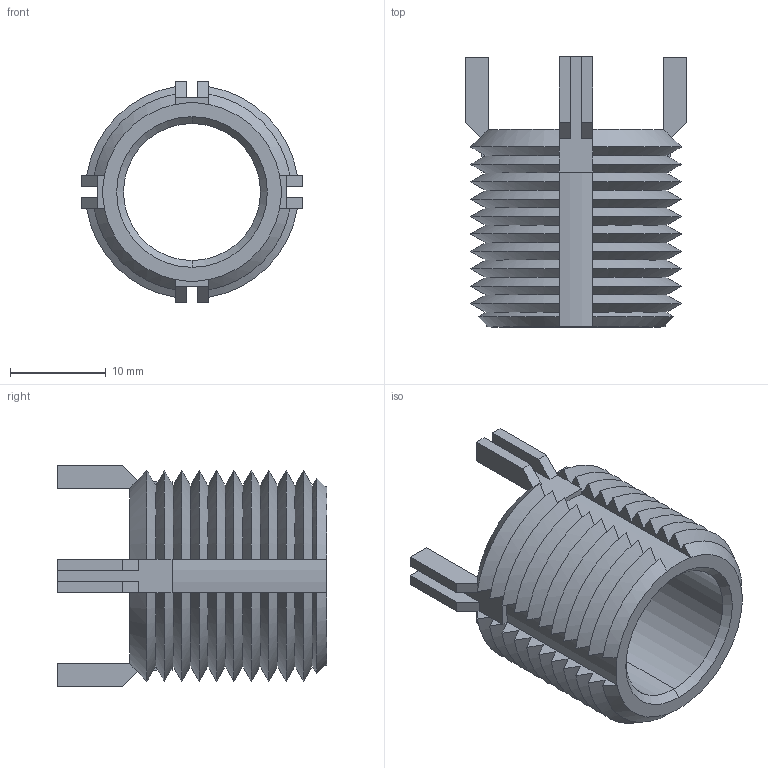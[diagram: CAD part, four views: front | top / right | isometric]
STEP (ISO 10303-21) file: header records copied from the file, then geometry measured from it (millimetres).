
FILE_DESCRIPTION (( 'STEP AP203' ), '1' );
FILE_NAME ('22034.W0391.step', '2023-04-20T09:58:14', ( '' ), ( '' ), 'SwSTEP 2.0', 'SolidWorks 2019', '' );
FILE_SCHEMA (( 'CONFIG_CONTROL_DESIGN' ));
Length unit declared in the file: millimetre
Products named in the file (1): 22034.W0391
Bounding box: 23.06 x 28.13 x 23.06 mm (x, y, z)
Volume: 3471 mm3; surface area: 4042.4 mm2
Topology: 1 solids, 1 shells, 188 faces, 498 edges, 312 vertices
Faces by surface type: cone 92, plane 90, cylinder 6
Entity records: 6063 total; most frequent: CARTESIAN_POINT 1683, ORIENTED_EDGE 996, DIRECTION 768, EDGE_CURVE 498, VERTEX_POINT 312, AXIS2_PLACEMENT_3D 297, B_SPLINE_CURVE_WITH_KNOTS 216, EDGE_LOOP 190
